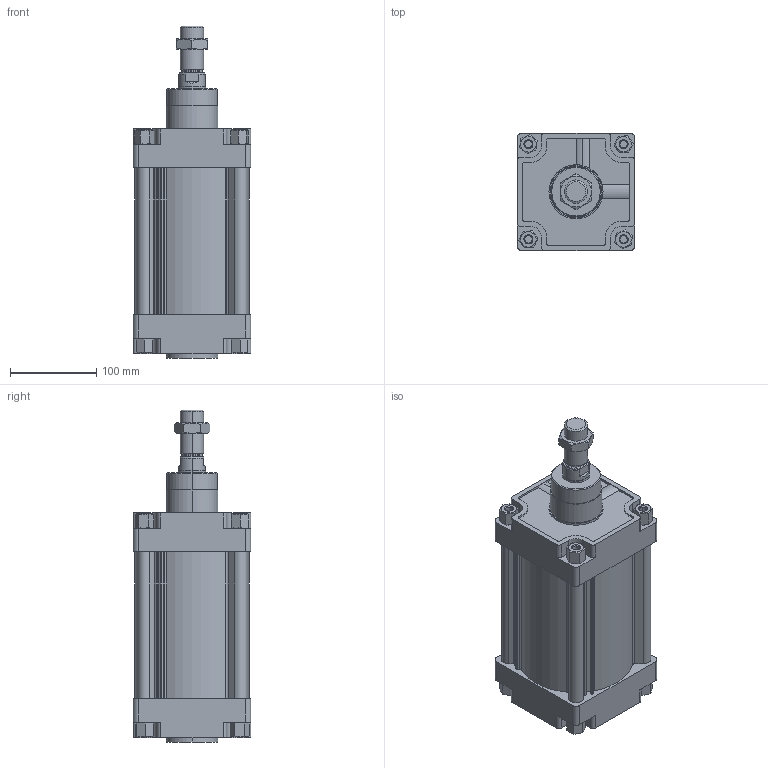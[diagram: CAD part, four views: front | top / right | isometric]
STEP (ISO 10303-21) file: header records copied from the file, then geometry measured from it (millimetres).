
FILE_DESCRIPTION (( 'STEP AP214' ), '1' );
FILE_NAME ('WAC-125-0100 (3D).STEP', '2019-12-05T08:05:50', ( '' ), ( '' ), 'SwSTEP 2.0', 'SolidWorks 2016', '' );
FILE_SCHEMA (( 'AUTOMOTIVE_DESIGN' ));
Length unit declared in the file: millimetre
Products named in the file (4): WAC-125-0100 (3D); Group1^WAC-125-0100 (3D); Group3^WAC-125-0100 (3D); Group2^WAC-125-0100 (3D)
Assembly tree (3 placements, depth 2):
  WAC-125-0100 (3D)
    Group1^WAC-125-0100 (3D)
    Group2^WAC-125-0100 (3D)
    Group3^WAC-125-0100 (3D)
Bounding box: 136 x 136 x 384 mm (x, y, z)
Volume: 3139752.1 mm3; surface area: 396882.6 mm2
Topology: 13 solids, 13 shells, 611 faces, 1614 edges, 1065 vertices
Faces by surface type: plane 344, cylinder 136, bspline 66, cone 65
Entity records: 24875 total; most frequent: CARTESIAN_POINT 8768, ORIENTED_EDGE 3228, DIRECTION 2801, EDGE_CURVE 1614, VERTEX_POINT 1065, LINE 993, VECTOR 993, AXIS2_PLACEMENT_3D 904
